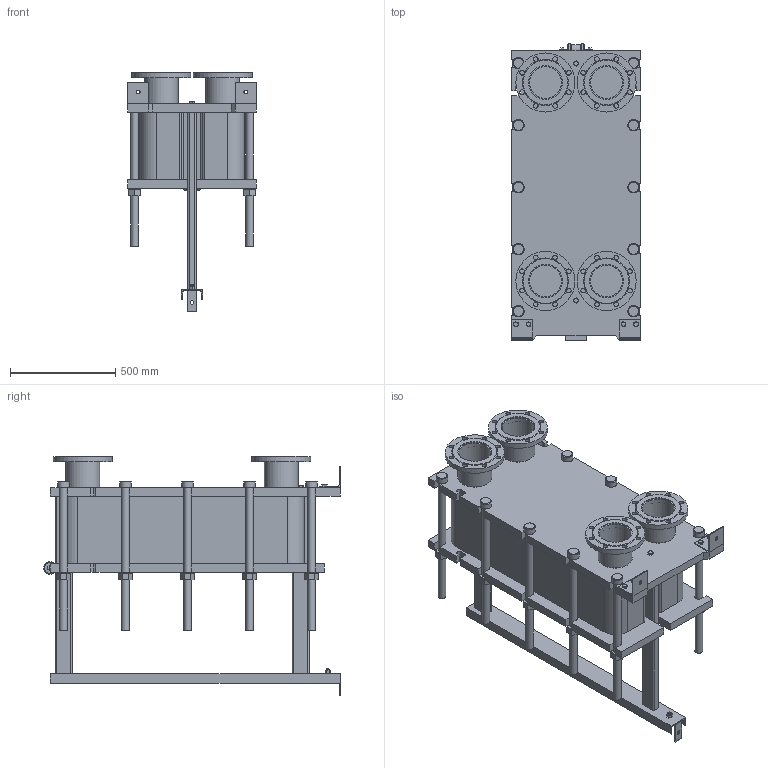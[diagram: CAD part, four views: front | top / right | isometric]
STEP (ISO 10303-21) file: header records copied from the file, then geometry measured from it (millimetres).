
FILE_DESCRIPTION(/* description */ (''),/* implementation_level */ '2;1');
FILE_NAME(/* name */ 'C:\Users\zhuro\Desktop\ENCO\TO\ЭН-041\ЭН-0,5-041-93-1.stp',/* time_stamp */ '2022-06-06T10:57:29+03:00',/* author */ ('zhuro'),/* organization */ (''),/* preprocessor_version */ 'ST-DEVELOPER v18.1',/* originating_system */ 'Autodesk Inventor 2022',/* authorisation */ '');
FILE_SCHEMA (('AUTOMOTIVE_DESIGN { 1 0 10303 214 3 1 1 }'));
Length unit declared in the file: millimetre
Products named in the file (1): ЭН-0,5-041-93-1
Bounding box: 610 x 1406.5 x 1137.5 mm (x, y, z)
Volume: 260439244.9 mm3; surface area: 8870166.9 mm2
Topology: 52 solids, 52 shells, 711 faces, 1696 edges, 1094 vertices
Faces by surface type: plane 487, cylinder 177, cone 41, torus 6
Full cylindrical faces by diameter (mm): 8 x4, 10 x2, 16 x8, 18 x3, 22 x32, 36 x24, 50 x1, 54 x10, 60 x12, 151 x4, 161 x8, 280 x4
Entity records: 22667 total; most frequent: CARTESIAN_POINT 5230, DIRECTION 3644, ORIENTED_EDGE 3392, EDGE_CURVE 1696, AXIS2_PLACEMENT_3D 1272, LINE 1100, VECTOR 1100, VERTEX_POINT 1094
